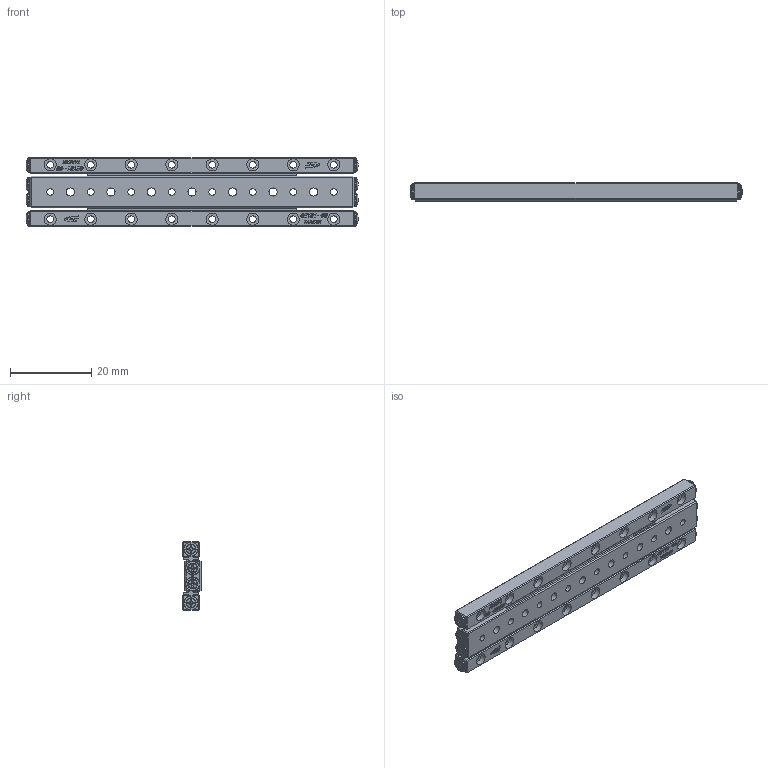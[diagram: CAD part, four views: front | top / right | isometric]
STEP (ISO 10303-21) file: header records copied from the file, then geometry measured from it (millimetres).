
FILE_DESCRIPTION (( 'STEP AP203' ), '1' );
FILE_NAME ('GRD01-80.STEP', '2023-08-10T02:35:58', ( '' ), ( '' ), 'SwSTEP 2.0', 'SolidWorks 2019', '' );
FILE_SCHEMA (( 'CONFIG_CONTROL_DESIGN' ));
Length unit declared in the file: millimetre
Products named in the file (4): GRD01-80-模糊化中軌; GRD01-80; GRV01-80-模糊化軌道; GRVP01-80-模糊化保持器組
Assembly tree (5 placements, depth 2):
  GRD01-80
    GRD01-80-模糊化中軌
    GRV01-80-模糊化軌道  x2
    GRVP01-80-模糊化保持器組  x2
Bounding box: 81.96 x 4.5 x 17 mm (x, y, z)
Volume: 4564.2 mm3; surface area: 6789 mm2
Topology: 5 solids, 13 shells, 2149 faces, 5408 edges, 3520 vertices
Faces by surface type: plane 1477, bspline 275, cylinder 217, torus 92, cone 80, sphere 8
Full cylindrical faces by diameter (mm): 1.32 x8, 1.65 x24, 2 x7, 2.5 x8, 3 x24, 3.5 x8
Entity records: 43842 total; most frequent: CARTESIAN_POINT 14117, ORIENTED_EDGE 6272, DIRECTION 5284, EDGE_CURVE 3136, LINE 2122, VECTOR 2122, VERTEX_POINT 2076, AXIS2_PLACEMENT_3D 1581
